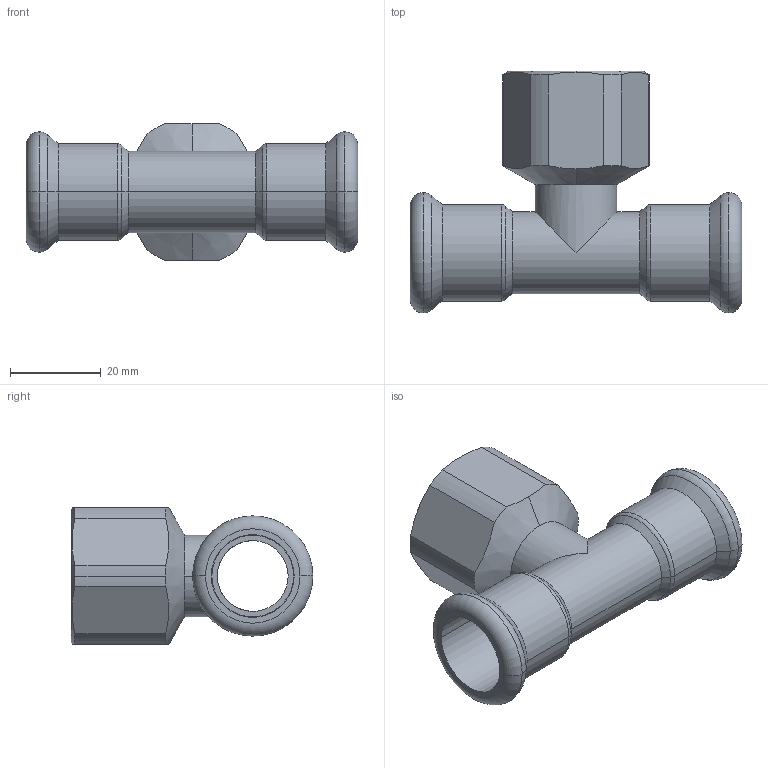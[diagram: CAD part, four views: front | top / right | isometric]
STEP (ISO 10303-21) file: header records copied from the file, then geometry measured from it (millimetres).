
FILE_DESCRIPTION(('CoCreate Modeling STEP Export'),'2;1');
FILE_NAME('C1418 18xRp3-4x18.stp','2014-11-12T12:59:43',(''),(''),'CoCreate Modeling STEP processor for AP214 (Solid Model)','CoCreate Modeling 17.00A 17-Jun-2010 (C) Parametric Technology GmbH','');
FILE_SCHEMA(('AUTOMOTIVE_DESIGN { 1 0 10303 214 1 1 1 1 }'));
Length unit declared in the file: millimetre
Products named in the file (2): C1418_18xRp3-4x18
Assembly tree (1 placements, depth 2):
  C1418_18xRp3-4x18
    C1418_18xRp3-4x18
Bounding box: 73 x 53.25 x 30 mm (x, y, z)
Volume: 15576.2 mm3; surface area: 14949.2 mm2
Topology: 1 solids, 1 shells, 68 faces, 163 edges, 101 vertices
Faces by surface type: cylinder 30, plane 14, torus 12, cone 12
Entity records: 2264 total; most frequent: CARTESIAN_POINT 839, ORIENTED_EDGE 326, DIRECTION 248, EDGE_CURVE 163, VERTEX_POINT 101, AXIS2_PLACEMENT_3D 100, EDGE_LOOP 76, FACE_OUTER_BOUND 68
